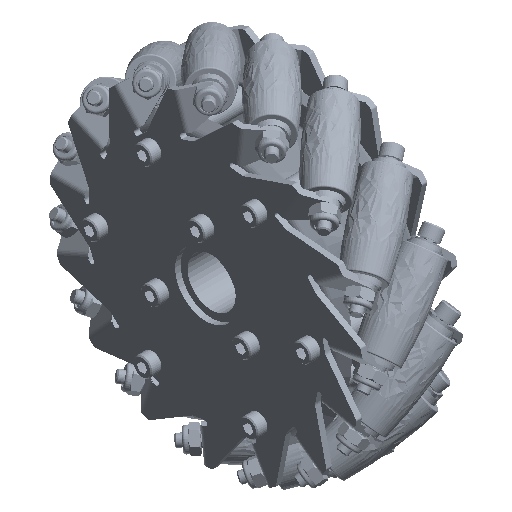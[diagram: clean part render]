
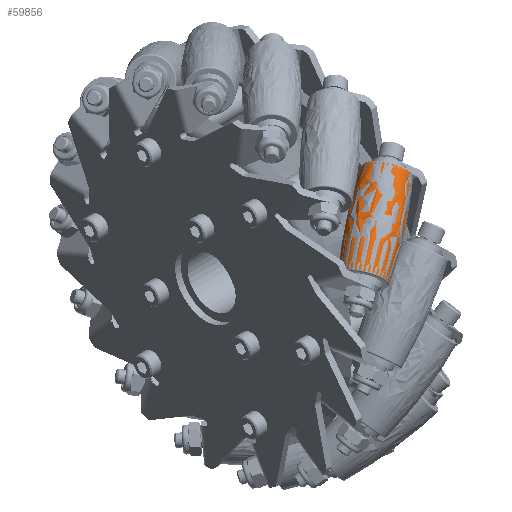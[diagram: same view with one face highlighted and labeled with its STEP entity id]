
A CAD part, isometric view. The second image highlights one B-rep face of the part: STEP entity #59856.
In plain terms, the highlighted face is a revolution surface.
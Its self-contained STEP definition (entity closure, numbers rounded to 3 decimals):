
#59527 = TOROIDAL_SURFACE('',#59528,7.92,0.5);
#59528 = AXIS2_PLACEMENT_3D('',#59529,#59530,#59531);
#59529 = CARTESIAN_POINT('',(0.,0.,-0.5));
#59530 = DIRECTION('',(0.,0.,1.));
#59531 = DIRECTION('',(0.589,0.808,-0.));
#59656 = VERTEX_POINT('',#59657);
#59657 = CARTESIAN_POINT('',(-4.645,-7.018,
    -0.438));
#59681 = VERTEX_POINT('',#59682);
#59682 = CARTESIAN_POINT('',(4.645,7.018,
    -0.438));
#59704 = EDGE_CURVE('',#59681,#59656,#59705,.T.);
#59705 = SURFACE_CURVE('',#59706,(#59711,#59718),.PCURVE_S1.);
#59706 = CIRCLE('',#59707,8.416);
#59707 = AXIS2_PLACEMENT_3D('',#59708,#59709,#59710);
#59708 = CARTESIAN_POINT('',(0.,0.,-0.438));
#59709 = DIRECTION('',(0.,0.,1.));
#59710 = DIRECTION('',(0.552,0.834,-0.));
#59711 = PCURVE('',#59527,#59712);
#59712 = DEFINITIONAL_REPRESENTATION('',(#59713),#59717);
#59713 = LINE('',#59714,#59715);
#59714 = CARTESIAN_POINT('',(0.046,0.123));
#59715 = VECTOR('',#59716,1.);
#59716 = DIRECTION('',(1.,0.));
#59717 = ( GEOMETRIC_REPRESENTATION_CONTEXT(2) 
PARAMETRIC_REPRESENTATION_CONTEXT() REPRESENTATION_CONTEXT('2D SPACE',''
  ) );
#59718 = PCURVE('',#59719,#59731);
#59719 = SURFACE_OF_REVOLUTION('',#59720,#59728);
#59720 = B_SPLINE_CURVE_WITH_KNOTS('',3,(#59721,#59722,#59723,#59724,
    #59725,#59726,#59727),.UNSPECIFIED.,.F.,.F.,(4,1,1,1,4),(0.,
    0.01,0.42,0.829,1.),.UNSPECIFIED.);
#59721 = CARTESIAN_POINT('',(4.62,6.98,
    -38.032));
#59722 = CARTESIAN_POINT('',(4.628,6.993,
    -37.909));
#59723 = CARTESIAN_POINT('',(4.991,7.541,
    -32.666));
#59724 = CARTESIAN_POINT('',(5.408,8.172,
    -22.136));
#59725 = CARTESIAN_POINT('',(5.19,7.842,
    -9.497));
#59726 = CARTESIAN_POINT('',(4.768,7.205,
    -2.2));
#59727 = CARTESIAN_POINT('',(4.619,6.98,
    -0.068));
#59728 = AXIS1_PLACEMENT('',#59729,#59730);
#59729 = CARTESIAN_POINT('',(0.,0.,-40.005));
#59730 = DIRECTION('',(0.,0.,1.));
#59731 = DEFINITIONAL_REPRESENTATION('',(#59732),#59736);
#59732 = LINE('',#59733,#59734);
#59733 = CARTESIAN_POINT('',(0.,0.99));
#59734 = VECTOR('',#59735,1.);
#59735 = DIRECTION('',(1.,0.));
#59736 = ( GEOMETRIC_REPRESENTATION_CONTEXT(2) 
PARAMETRIC_REPRESENTATION_CONTEXT() REPRESENTATION_CONTEXT('2D SPACE',''
  ) );
#59759 = SURFACE_OF_REVOLUTION('',#59760,#59768);
#59760 = B_SPLINE_CURVE_WITH_KNOTS('',3,(#59761,#59762,#59763,#59764,
    #59765,#59766,#59767),.UNSPECIFIED.,.F.,.F.,(4,1,1,1,4),(0.,
    0.01,0.42,0.829,1.),.UNSPECIFIED.);
#59761 = CARTESIAN_POINT('',(4.62,6.98,
    -38.032));
#59762 = CARTESIAN_POINT('',(4.628,6.993,
    -37.909));
#59763 = CARTESIAN_POINT('',(4.991,7.541,
    -32.666));
#59764 = CARTESIAN_POINT('',(5.408,8.172,
    -22.136));
#59765 = CARTESIAN_POINT('',(5.19,7.842,
    -9.497));
#59766 = CARTESIAN_POINT('',(4.768,7.205,
    -2.2));
#59767 = CARTESIAN_POINT('',(4.619,6.98,
    -0.068));
#59768 = AXIS1_PLACEMENT('',#59769,#59770);
#59769 = CARTESIAN_POINT('',(0.,0.,-40.005));
#59770 = DIRECTION('',(0.,0.,1.));
#59781 = EDGE_CURVE('',#59782,#59656,#59784,.T.);
#59782 = VERTEX_POINT('',#59783);
#59783 = CARTESIAN_POINT('',(-4.645,-7.019,
    -37.662));
#59784 = SURFACE_CURVE('',#59785,(#59792,#59798),.PCURVE_S1.);
#59785 = B_SPLINE_CURVE_WITH_KNOTS('',3,(#59786,#59787,#59788,#59789,
    #59790,#59791),.UNSPECIFIED.,.F.,.F.,(4,1,1,4),(0.,0.418,
    0.836,1.),.UNSPECIFIED.);
#59786 = CARTESIAN_POINT('',(-4.645,-7.019,
    -37.662));
#59787 = CARTESIAN_POINT('',(-4.996,-7.548,
    -32.54));
#59788 = CARTESIAN_POINT('',(-5.408,-8.172,
    -22.135));
#59789 = CARTESIAN_POINT('',(-5.192,-7.845,
    -9.623));
#59790 = CARTESIAN_POINT('',(-4.782,-7.226,
    -2.448));
#59791 = CARTESIAN_POINT('',(-4.645,-7.018,
    -0.438));
#59792 = PCURVE('',#59759,#59793);
#59793 = DEFINITIONAL_REPRESENTATION('',(#59794),#59797);
#59794 = B_SPLINE_CURVE_WITH_KNOTS('',1,(#59795,#59796),.UNSPECIFIED.,
  .F.,.F.,(2,2),(0.,1.),.PIECEWISE_BEZIER_KNOTS.);
#59795 = CARTESIAN_POINT('',(3.142,0.01));
#59796 = CARTESIAN_POINT('',(3.142,0.99));
#59797 = ( GEOMETRIC_REPRESENTATION_CONTEXT(2) 
PARAMETRIC_REPRESENTATION_CONTEXT() REPRESENTATION_CONTEXT('2D SPACE',''
  ) );
#59798 = PCURVE('',#59719,#59799);
#59799 = DEFINITIONAL_REPRESENTATION('',(#59800),#59803);
#59800 = B_SPLINE_CURVE_WITH_KNOTS('',1,(#59801,#59802),.UNSPECIFIED.,
  .F.,.F.,(2,2),(0.,1.),.PIECEWISE_BEZIER_KNOTS.);
#59801 = CARTESIAN_POINT('',(3.142,0.01));
#59802 = CARTESIAN_POINT('',(3.142,0.99));
#59803 = ( GEOMETRIC_REPRESENTATION_CONTEXT(2) 
PARAMETRIC_REPRESENTATION_CONTEXT() REPRESENTATION_CONTEXT('2D SPACE',''
  ) );
#59806 = VERTEX_POINT('',#59807);
#59807 = CARTESIAN_POINT('',(4.645,7.019,
    -37.662));
#59834 = EDGE_CURVE('',#59806,#59681,#59835,.T.);
#59835 = SURFACE_CURVE('',#59836,(#59843,#59849),.PCURVE_S1.);
#59836 = B_SPLINE_CURVE_WITH_KNOTS('',3,(#59837,#59838,#59839,#59840,
    #59841,#59842),.UNSPECIFIED.,.F.,.F.,(4,1,1,4),(0.,0.418,
    0.836,1.),.UNSPECIFIED.);
#59837 = CARTESIAN_POINT('',(4.645,7.019,
    -37.662));
#59838 = CARTESIAN_POINT('',(4.996,7.548,
    -32.54));
#59839 = CARTESIAN_POINT('',(5.408,8.172,
    -22.135));
#59840 = CARTESIAN_POINT('',(5.192,7.845,
    -9.623));
#59841 = CARTESIAN_POINT('',(4.782,7.226,
    -2.448));
#59842 = CARTESIAN_POINT('',(4.645,7.018,-0.438
    ));
#59843 = PCURVE('',#59759,#59844);
#59844 = DEFINITIONAL_REPRESENTATION('',(#59845),#59848);
#59845 = B_SPLINE_CURVE_WITH_KNOTS('',1,(#59846,#59847),.UNSPECIFIED.,
  .F.,.F.,(2,2),(0.,1.),.PIECEWISE_BEZIER_KNOTS.);
#59846 = CARTESIAN_POINT('',(6.283,0.01));
#59847 = CARTESIAN_POINT('',(6.283,0.99));
#59848 = ( GEOMETRIC_REPRESENTATION_CONTEXT(2) 
PARAMETRIC_REPRESENTATION_CONTEXT() REPRESENTATION_CONTEXT('2D SPACE',''
  ) );
#59849 = PCURVE('',#59719,#59850);
#59850 = DEFINITIONAL_REPRESENTATION('',(#59851),#59854);
#59851 = B_SPLINE_CURVE_WITH_KNOTS('',1,(#59852,#59853),.UNSPECIFIED.,
  .F.,.F.,(2,2),(0.,1.),.PIECEWISE_BEZIER_KNOTS.);
#59852 = CARTESIAN_POINT('',(0.,0.01));
#59853 = CARTESIAN_POINT('',(0.,0.99));
#59854 = ( GEOMETRIC_REPRESENTATION_CONTEXT(2) 
PARAMETRIC_REPRESENTATION_CONTEXT() REPRESENTATION_CONTEXT('2D SPACE',''
  ) );
#59856 = ADVANCED_FACE('',(#59857),#59719,.T.);
#59857 = FACE_BOUND('',#59858,.T.);
#59858 = EDGE_LOOP('',(#59859,#59860,#59887,#59888));
#59859 = ORIENTED_EDGE('',*,*,#59834,.F.);
#59860 = ORIENTED_EDGE('',*,*,#59861,.T.);
#59861 = EDGE_CURVE('',#59806,#59782,#59862,.T.);
#59862 = SURFACE_CURVE('',#59863,(#59868,#59875),.PCURVE_S1.);
#59863 = CIRCLE('',#59864,8.417);
#59864 = AXIS2_PLACEMENT_3D('',#59865,#59866,#59867);
#59865 = CARTESIAN_POINT('',(0.,0.,-37.662));
#59866 = DIRECTION('',(0.,0.,1.));
#59867 = DIRECTION('',(0.552,0.834,-0.));
#59868 = PCURVE('',#59719,#59869);
#59869 = DEFINITIONAL_REPRESENTATION('',(#59870),#59874);
#59870 = LINE('',#59871,#59872);
#59871 = CARTESIAN_POINT('',(0.,0.01));
#59872 = VECTOR('',#59873,1.);
#59873 = DIRECTION('',(1.,0.));
#59874 = ( GEOMETRIC_REPRESENTATION_CONTEXT(2) 
PARAMETRIC_REPRESENTATION_CONTEXT() REPRESENTATION_CONTEXT('2D SPACE',''
  ) );
#59875 = PCURVE('',#59876,#59881);
#59876 = TOROIDAL_SURFACE('',#59877,7.921,0.5);
#59877 = AXIS2_PLACEMENT_3D('',#59878,#59879,#59880);
#59878 = CARTESIAN_POINT('',(0.,0.,-37.6));
#59879 = DIRECTION('',(0.,0.,1.));
#59880 = DIRECTION('',(0.591,0.806,-0.));
#59881 = DEFINITIONAL_REPRESENTATION('',(#59882),#59886);
#59882 = LINE('',#59883,#59884);
#59883 = CARTESIAN_POINT('',(0.048,6.16));
#59884 = VECTOR('',#59885,1.);
#59885 = DIRECTION('',(1.,0.));
#59886 = ( GEOMETRIC_REPRESENTATION_CONTEXT(2) 
PARAMETRIC_REPRESENTATION_CONTEXT() REPRESENTATION_CONTEXT('2D SPACE',''
  ) );
#59887 = ORIENTED_EDGE('',*,*,#59781,.T.);
#59888 = ORIENTED_EDGE('',*,*,#59704,.F.);
